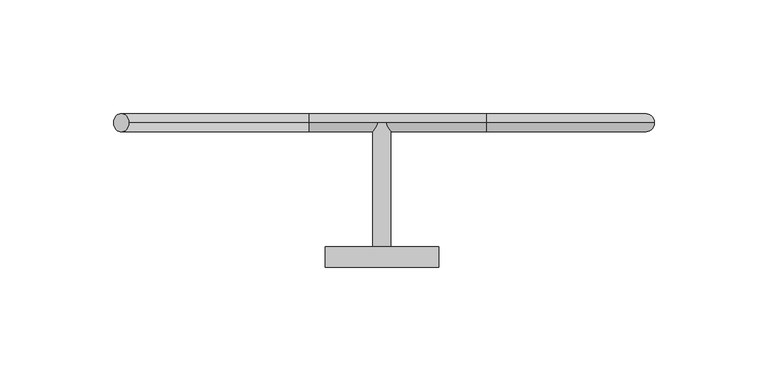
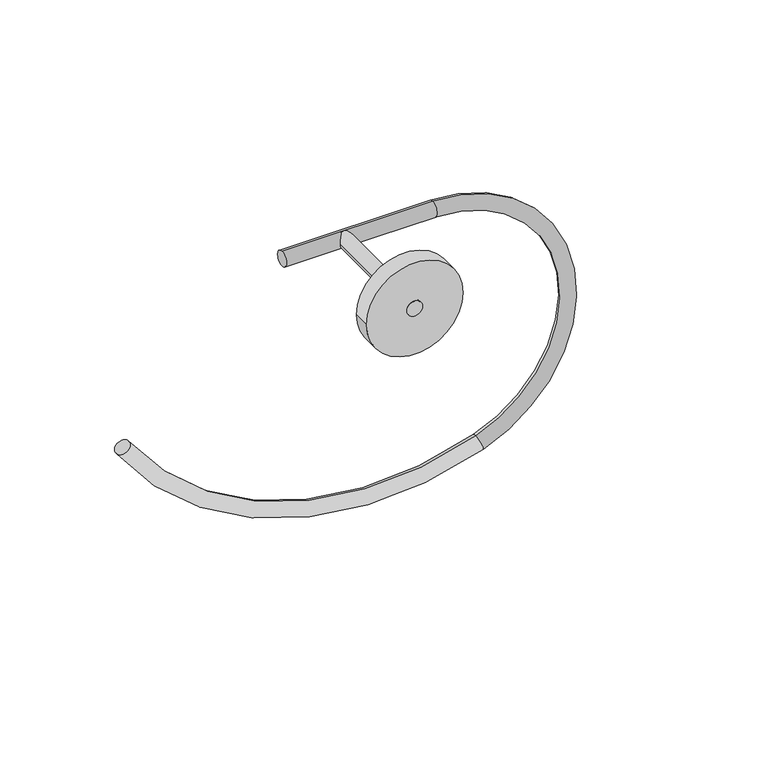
"""IFC4 building model written with IfcOpenShell, lengths in millimetres: flow terminal geometry, Toallero Dica 1009 : Toallero Dica manos 1009."""

from ifc_helpers import new_model, si_unit, point, frame, frame_2d, origin, place, context, project, spatial, circle_curve, ellipse_curve, trimmed, segment, composite_curve, outline, extrude, source, transform, mapped, element, save
from ifc_brep_helpers import plane_surface, cylinder_surface, revolved_surface, advanced_brep


def flow_terminal_02720d88(model_context):
    return source(origin(), model_context, "Body", "SolidModel", [
        extrude(outline(composite_curve([segment(trimmed(circle_curve(frame_2d((0.0, 125.0)), 4.0), [point((0.0, 121.0))], [point((0.0, 129.0))], False, "CARTESIAN"), True, "CONTINUOUS"), segment(trimmed(circle_curve(frame_2d((0.0, 125.0)), 4.0), [point((0.0, 129.0))], [point((0.0, 121.0))], False, "CARTESIAN"), True, "CONTINUOUS")], self_intersect=False)), frame((0.0, 10.0, 0.0), z_axis=(0.0, 1.0, 0.0), x_axis=(0.0, 0.0, 1.0)), (0.0, 0.0, 1.0), 63.3830496),
        extrude(outline(composite_curve([segment(trimmed(circle_curve(frame_2d((0.0, 125.0)), 25.0), [point((0.0, 100.0))], [point((0.0, 150.0))], False, "CARTESIAN"), True, "CONTINUOUS"), segment(trimmed(circle_curve(frame_2d((0.0, 125.0)), 25.0), [point((0.0, 150.0))], [point((0.0, 100.0))], False, "CARTESIAN"), True, "CONTINUOUS")], self_intersect=False)), frame((0.0, 10.0, 0.0), z_axis=(0.0, 1.0, 0.0), x_axis=(0.0, 0.0, 1.0)), (0.0, 0.0, 1.0), 8.9918697),
        advanced_brep(
        [(92.9954104, 73.5, -4.0), (92.9954104, 73.5, 4.0), (170.9338842, 73.5, -4.0), (170.9338842, 73.5, 4.0), (196.0697012, 73.5, -139.6002206), (193.3523155, 73.5, -132.0758724), (13.6299481, 73.5, -72.0247315), (6.935123, 73.5, -76.4041512)],
        [
            (0, 1, circle_curve(frame((92.9954104, 73.5, 0.0), z_axis=(-1.0, 0.0, 0.0), x_axis=(0.0, 0.0, 1.0)), 4.0)),
            (1, 0, circle_curve(frame((92.9954104, 73.5, 0.0), z_axis=(-1.0, 0.0, 0.0), x_axis=(0.0, 0.0, 1.0)), 4.0)),
            (0, 2),
            (2, 3, circle_curve(frame((170.9338842, 73.5, 0.0), z_axis=(-1.0, 0.0, 0.0), x_axis=(0.0, 0.0, 1.0)), 4.0)),
            (3, 1),
            (3, 2, circle_curve(frame((170.9338842, 73.5, 0.0), z_axis=(-1.0, 0.0, 0.0), x_axis=(0.0, 0.0, 1.0)), 4.0)),
            (4, 3, circle_curve(frame((170.9338842, 73.5, -70.0), z_axis=(0.0, -1.0, 0.0), x_axis=(0.0, 0.0, 1.0)), 74.0)),
            (2, 5, circle_curve(frame((170.9338842, 73.5, -70.0), z_axis=(0.0, 1.0, 0.0), x_axis=(0.0, 0.0, 1.0)), 66.0)),
            (5, 4, circle_curve(frame((194.7110083, 73.5, -135.8380465), z_axis=(0.940543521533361, 0.0, 0.3396732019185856), x_axis=(0.3396732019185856, 0.0, -0.940543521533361)), 4.0)),
            (4, 5, circle_curve(frame((194.7110083, 73.5, -135.8380465), z_axis=(0.9405435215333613, 0.0, 0.33967320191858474), x_axis=(0.33967320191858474, 0.0, -0.9405435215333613)), 4.0)),
            (6, 7, circle_curve(frame((10.2825356, 73.5, -74.2144413), z_axis=(-0.5474274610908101, 0.0, 0.8368531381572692), x_axis=(-0.8368531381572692, 0.0, -0.5474274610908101)), 4.0)),
            (7, 6, circle_curve(frame((10.2825356, 73.5, -74.2144413), z_axis=(-0.5474274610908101, 0.0, 0.8368531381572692), x_axis=(-0.8368531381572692, 0.0, -0.5474274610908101)), 4.0)),
            (7, 4, circle_curve(frame((141.4649332, 73.5, 11.5985211), z_axis=(0.0, -1.0, 0.0), x_axis=(0.33967320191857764, 0.0, -0.9405435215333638)), 160.7567733)),
            (5, 6, circle_curve(frame((141.4649332, 73.5, 11.5985211), z_axis=(0.0, 1.0, 0.0), x_axis=(0.33967320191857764, 0.0, -0.9405435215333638)), 152.7567733)),
        ],
        [
            plane_surface(frame((92.9954104, 10.0, 0.0), z_axis=(-1.0, 0.0, 0.0), x_axis=(0.0, -1.0, 0.0))),
            cylinder_surface(frame((92.9954104, 73.5, 0.0), z_axis=(-1.0, 0.0, 0.0), x_axis=(0.0, 0.0, 1.0)), 4.0),
            revolved_surface(trimmed(ellipse_curve(frame((170.9338842, 73.5, 0.0), z_axis=(-1.0, 0.0, 0.0), x_axis=(0.0, 0.0, 1.0)), 4.0, 4.0), [point((170.9338842, 73.5, -4.0))], [point((170.9338842, 73.5, 4.0))], True, "CARTESIAN"), (170.9338842, 10.0, -70.0), (0.0, 1.0, 0.0)),
            revolved_surface(trimmed(ellipse_curve(frame((170.9338842, 73.5, 0.0), z_axis=(-1.0, 0.0, 0.0), x_axis=(0.0, 0.0, 1.0)), 4.0, 4.0), [point((170.9338842, 73.5, 4.0))], [point((170.9338842, 73.5, -4.0))], True, "CARTESIAN"), (170.9338842, 10.0, -70.0), (0.0, 1.0, 0.0)),
            plane_surface(frame((10.2825356, 10.0, -74.2144413), z_axis=(-0.5474274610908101, 0.0, 0.8368531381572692), x_axis=(0.0, -1.0, 0.0))),
            revolved_surface(trimmed(ellipse_curve(frame((194.7110083, 73.5, -135.8380465), z_axis=(0.9405435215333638, 0.0, 0.33967320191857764), x_axis=(0.33967320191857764, 0.0, -0.9405435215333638)), 4.0, 4.0), [point((193.3523155, 73.5, -132.0758724))], [point((196.0697012, 73.5, -139.6002206))], True, "CARTESIAN"), (141.4649332, 10.0, 11.5985211), (0.0, 1.0, 0.0)),
            revolved_surface(trimmed(ellipse_curve(frame((194.7110083, 73.5, -135.8380465), z_axis=(0.9405435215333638, 0.0, 0.33967320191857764), x_axis=(0.33967320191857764, 0.0, -0.9405435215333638)), 4.0, 4.0), [point((196.0697012, 73.5, -139.6002206))], [point((193.3523155, 73.5, -132.0758724))], True, "CARTESIAN"), (141.4649332, 10.0, 11.5985211), (0.0, 1.0, 0.0)),
        ],
        [
            (0, [[1, 2]]),
            (1, [[-1, 3, 4, 5]]),
            (1, [[-2, -5, 6, -3]]),
            (2, [[7, -4, 8, 9]]),
            (3, [[-8, -6, -7, 10]]),
            (4, [[11, 12]]),
            (5, [[13, -9, 14, -12]]),
            (6, [[-14, -10, -13, -11]]),
        ],
    ),
    ])


if __name__ == "__main__":
    model = new_model("IFC4")
    model_context = context("Model", 3, world=origin())
    ifc_project = project(units=[si_unit("LENGTHUNIT", "METRE", prefix="MILLI")], contexts=[model_context])
    site = spatial("IfcSite", under=ifc_project)
    building = spatial("IfcBuilding", under=site)
    placement = place(None, origin())
    flow_terminal_shape = flow_terminal_02720d88(model_context)
    element("IfcFlowTerminal", 1, ObjectType="Toallero Dica 1009 : Toallero Dica manos 1009", at=placement, inside=building, context=model_context, shape_type="MappedRepresentation", body=[
        mapped(flow_terminal_shape, transform((0.0, 0.0, 0.0), x_axis=(1.0, 0.0, 0.0), y_axis=(0.0, 1.0, 0.0), z_axis=(0.0, 0.0, 1.0))),
    ])
    save(model, "model.ifc")
